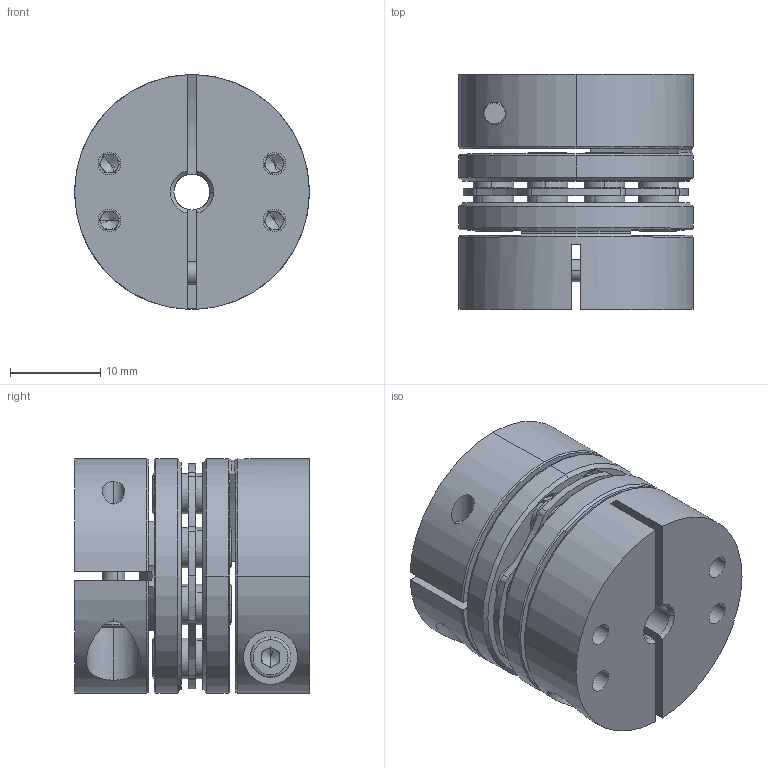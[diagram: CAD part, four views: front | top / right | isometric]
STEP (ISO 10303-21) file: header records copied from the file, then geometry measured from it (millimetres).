
FILE_DESCRIPTION (( 'STEP AP203' ), '1' );
FILE_NAME ('LDG-D26-4-4.STEP', '2021-10-28T03:19:00', ( '' ), ( '' ), 'SwSTEP 2.0', 'SolidWorks 2018', '' );
FILE_SCHEMA (( 'CONFIG_CONTROL_DESIGN' ));
Length unit declared in the file: millimetre
Products named in the file (2): LDG-D26-4-4; 錨璃2^LDG-D26蚾饜芞1
Assembly tree (1 placements, depth 2):
  LDG-D26-4-4
    錨璃2^LDG-D26蚾饜芞1
Bounding box: 26 x 26 x 26 mm (x, y, z)
Volume: 10919.8 mm3; surface area: 9186.5 mm2
Topology: 1 solids, 21 shells, 765 faces, 1872 edges, 1159 vertices
Faces by surface type: cylinder 301, plane 244, cone 200, torus 20
Entity records: 23061 total; most frequent: DIRECTION 4281, CARTESIAN_POINT 4168, ORIENTED_EDGE 3688, EDGE_CURVE 1844, AXIS2_PLACEMENT_3D 1740, VERTEX_POINT 1159, CIRCLE 971, EDGE_LOOP 909
